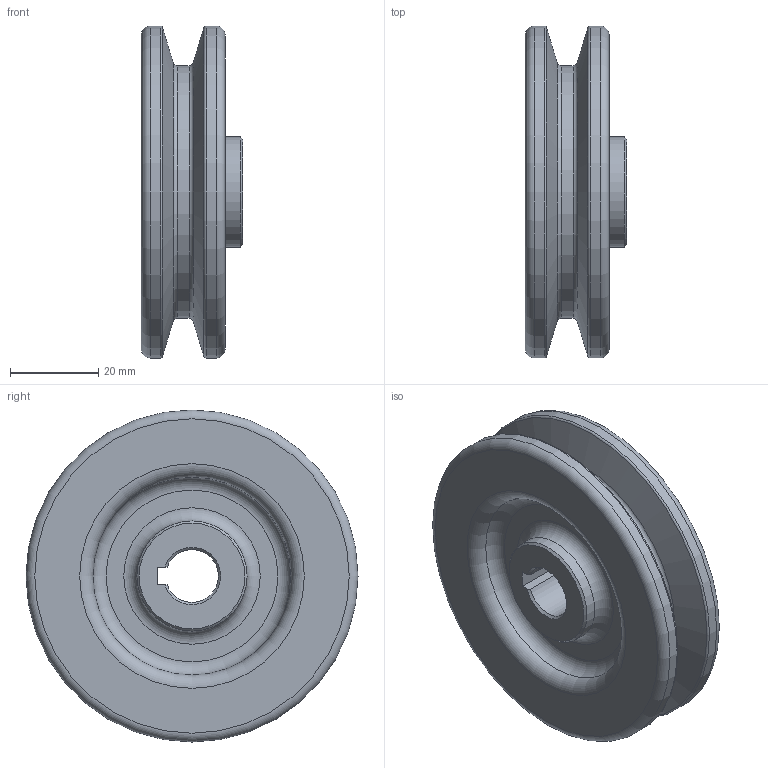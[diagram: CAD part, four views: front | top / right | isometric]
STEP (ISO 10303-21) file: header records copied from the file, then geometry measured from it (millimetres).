
FILE_DESCRIPTION(/* description */ (''),/* implementation_level */ '2;1');
FILE_NAME(/* name */ '',/* time_stamp */ '2024-07-17T10:51:54+09:00',/* author */ ('jhkim'),/* organization */ (''),/* preprocessor_version */ 'ST-DEVELOPER v20',/* originating_system */ 'Autodesk Inventor 2025',/* authorisation */ '');
FILE_SCHEMA (('AUTOMOTIVE_DESIGN { 1 0 10303 214 3 1 1 }'));
Length unit declared in the file: millimetre
Products named in the file (1): V-벨트풀리
Bounding box: 23 x 75.4 x 75.4 mm (x, y, z)
Volume: 57524.7 mm3; surface area: 17973.3 mm2
Topology: 1 solids, 1 shells, 33 faces, 78 edges, 51 vertices
Faces by surface type: torus 12, plane 9, cone 6, cylinder 6
Full cylindrical faces by diameter (mm): 25 x2, 57.4 x1, 75.4 x2
Entity records: 1026 total; most frequent: DIRECTION 197, CARTESIAN_POINT 171, ORIENTED_EDGE 156, AXIS2_PLACEMENT_3D 89, EDGE_CURVE 78, CIRCLE 55, VERTEX_POINT 51, EDGE_LOOP 39
